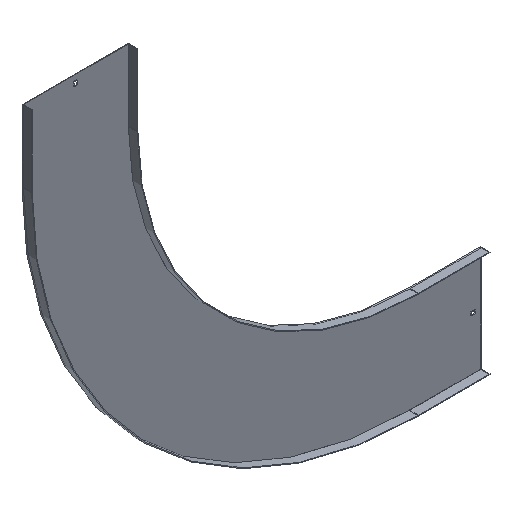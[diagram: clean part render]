
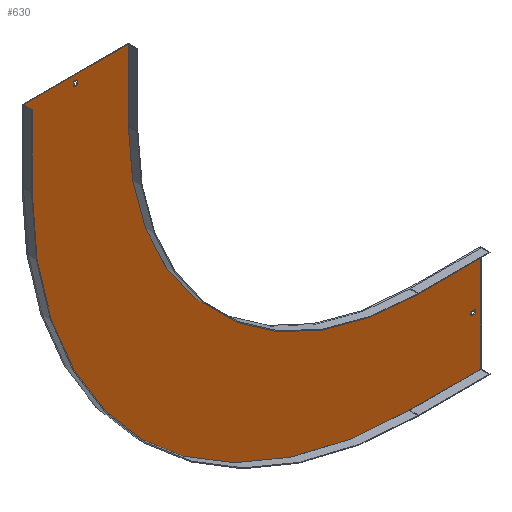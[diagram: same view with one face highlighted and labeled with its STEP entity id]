
A CAD part, isometric view. The second image highlights one B-rep face of the part: STEP entity #630.
In plain terms, the highlighted planar face has unit normal (0, -1, 0).
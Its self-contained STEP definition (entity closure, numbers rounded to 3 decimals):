
#4 = VECTOR ( 'NONE', #759, 1000. ) ;
#9 = VERTEX_POINT ( 'NONE', #281 ) ;
#14 = EDGE_CURVE ( 'NONE', #368, #798, #350, .T. ) ;
#26 = CARTESIAN_POINT ( 'NONE',  ( -810., -1.5, 150. ) ) ;
#32 = CARTESIAN_POINT ( 'NONE',  ( 0., -1.5, 0. ) ) ;
#33 = DIRECTION ( 'NONE',  ( 0., 0., -1. ) ) ;
#34 = DIRECTION ( 'NONE',  ( 0., 0., -1. ) ) ;
#40 = EDGE_CURVE ( 'NONE', #798, #301, #288, .T. ) ;
#45 = VERTEX_POINT ( 'NONE', #76 ) ;
#47 = VECTOR ( 'NONE', #267, 1000. ) ;
#48 = DIRECTION ( 'NONE',  ( 0., 0., 1. ) ) ;
#53 = LINE ( 'NONE', #315, #47 ) ;
#59 = DIRECTION ( 'NONE',  ( 0., 0., 1. ) ) ;
#63 = LINE ( 'NONE', #739, #539 ) ;
#67 = EDGE_CURVE ( 'NONE', #175, #129, #546, .T. ) ;
#71 = CIRCLE ( 'NONE', #99, 590. ) ;
#72 = DIRECTION ( 'NONE',  ( -1., 0., 0. ) ) ;
#75 = DIRECTION ( 'NONE',  ( 0., 0., -1. ) ) ;
#76 = CARTESIAN_POINT ( 'NONE',  ( -810., -1.5, 0. ) ) ;
#99 = AXIS2_PLACEMENT_3D ( 'NONE', #32, #561, #34 ) ;
#103 = ORIENTED_EDGE ( 'NONE', *, *, #582, .F. ) ;
#115 = VECTOR ( 'NONE', #33, 1000. ) ;
#123 = VERTEX_POINT ( 'NONE', #426 ) ;
#129 = VERTEX_POINT ( 'NONE', #265 ) ;
#130 = DIRECTION ( 'NONE',  ( 0., 0., 1. ) ) ;
#136 = LINE ( 'NONE', #464, #696 ) ;
#137 = LINE ( 'NONE', #721, #758 ) ;
#144 = CARTESIAN_POINT ( 'NONE',  ( 0., -1.5, 138. ) ) ;
#151 = CARTESIAN_POINT ( 'NONE',  ( -590., -1.5, 0. ) ) ;
#154 = DIRECTION ( 'NONE',  ( 1., 0., 0. ) ) ;
#165 = CARTESIAN_POINT ( 'NONE',  ( 129., -1.5, 0. ) ) ;
#175 = VERTEX_POINT ( 'NONE', #206 ) ;
#188 = EDGE_LOOP ( 'NONE', ( #789, #580, #504, #712 ) ) ;
#189 = CARTESIAN_POINT ( 'NONE',  ( 0., -1.5, -590. ) ) ;
#197 = EDGE_CURVE ( 'NONE', #719, #434, #136, .T. ) ;
#198 = EDGE_CURVE ( 'NONE', #45, #368, #63, .T. ) ;
#199 = VERTEX_POINT ( 'NONE', #399 ) ;
#201 = AXIS2_PLACEMENT_3D ( 'NONE', #680, #319, #75 ) ;
#206 = CARTESIAN_POINT ( 'NONE',  ( 129., -1.5, -703.25 ) ) ;
#212 = VECTOR ( 'NONE', #555, 1000. ) ;
#215 = LINE ( 'NONE', #468, #587 ) ;
#219 = FACE_BOUND ( 'NONE', #268, .T. ) ;
#220 = DIRECTION ( 'NONE',  ( 1., 0., 0. ) ) ;
#248 = LINE ( 'NONE', #791, #588 ) ;
#254 = DIRECTION ( 'NONE',  ( -1., 0., 0. ) ) ;
#264 = ORIENTED_EDGE ( 'NONE', *, *, #586, .T. ) ;
#265 = CARTESIAN_POINT ( 'NONE',  ( 138., -1.5, -703.25 ) ) ;
#267 = DIRECTION ( 'NONE',  ( 0., 0., -1. ) ) ;
#268 = EDGE_LOOP ( 'NONE', ( #513, #604, #264, #509 ) ) ;
#281 = CARTESIAN_POINT ( 'NONE',  ( -696.75, -1.5, 138. ) ) ;
#288 = LINE ( 'NONE', #814, #212 ) ;
#291 = CARTESIAN_POINT ( 'NONE',  ( -703.25, -1.5, 129. ) ) ;
#301 = VERTEX_POINT ( 'NONE', #151 ) ;
#315 = CARTESIAN_POINT ( 'NONE',  ( -696.75, -1.5, 0. ) ) ;
#319 = DIRECTION ( 'NONE',  ( 0., -1., 0. ) ) ;
#327 = VERTEX_POINT ( 'NONE', #678 ) ;
#337 = CARTESIAN_POINT ( 'NONE',  ( 0., -1.5, 129. ) ) ;
#350 = LINE ( 'NONE', #354, #390 ) ;
#354 = CARTESIAN_POINT ( 'NONE',  ( -811.5, -1.5, 150. ) ) ;
#359 = EDGE_CURVE ( 'NONE', #434, #9, #745, .T. ) ;
#366 = CARTESIAN_POINT ( 'NONE',  ( 150., -1.5, -588.5 ) ) ;
#368 = VERTEX_POINT ( 'NONE', #26 ) ;
#390 = VECTOR ( 'NONE', #220, 1000. ) ;
#399 = CARTESIAN_POINT ( 'NONE',  ( 0., -1.5, -810. ) ) ;
#402 = CARTESIAN_POINT ( 'NONE',  ( -696.75, -1.5, 129. ) ) ;
#406 = FACE_BOUND ( 'NONE', #188, .T. ) ;
#426 = CARTESIAN_POINT ( 'NONE',  ( 129., -1.5, -696.75 ) ) ;
#434 = VERTEX_POINT ( 'NONE', #446 ) ;
#440 = CARTESIAN_POINT ( 'NONE',  ( -590., -1.5, 150. ) ) ;
#442 = DIRECTION ( 'NONE',  ( 0., 0., -1. ) ) ;
#446 = CARTESIAN_POINT ( 'NONE',  ( -703.25, -1.5, 138. ) ) ;
#452 = EDGE_CURVE ( 'NONE', #123, #175, #579, .T. ) ;
#459 = ORIENTED_EDGE ( 'NONE', *, *, #40, .F. ) ;
#464 = CARTESIAN_POINT ( 'NONE',  ( -703.25, -1.5, 0. ) ) ;
#468 = CARTESIAN_POINT ( 'NONE',  ( 150., -1.5, -810. ) ) ;
#475 = FACE_OUTER_BOUND ( 'NONE', #608, .T. ) ;
#483 = CARTESIAN_POINT ( 'NONE',  ( 0., -1.5, -703.25 ) ) ;
#499 = EDGE_CURVE ( 'NONE', #301, #677, #71, .T. ) ;
#500 = DIRECTION ( 'NONE',  ( 0., 0., -1. ) ) ;
#504 = ORIENTED_EDGE ( 'NONE', *, *, #67, .F. ) ;
#509 = ORIENTED_EDGE ( 'NONE', *, *, #197, .T. ) ;
#511 = ORIENTED_EDGE ( 'NONE', *, *, #198, .F. ) ;
#513 = ORIENTED_EDGE ( 'NONE', *, *, #359, .T. ) ;
#522 = ORIENTED_EDGE ( 'NONE', *, *, #829, .F. ) ;
#539 = VECTOR ( 'NONE', #130, 1000. ) ;
#543 = VECTOR ( 'NONE', #442, 1000. ) ;
#546 = LINE ( 'NONE', #483, #4 ) ;
#550 = VERTEX_POINT ( 'NONE', #668 ) ;
#555 = DIRECTION ( 'NONE',  ( 0., 0., -1. ) ) ;
#561 = DIRECTION ( 'NONE',  ( 0., -1., 0. ) ) ;
#578 = DIRECTION ( 'NONE',  ( 0., 1., 0. ) ) ;
#579 = LINE ( 'NONE', #165, #543 ) ;
#580 = ORIENTED_EDGE ( 'NONE', *, *, #794, .F. ) ;
#582 = EDGE_CURVE ( 'NONE', #327, #199, #215, .T. ) ;
#586 = EDGE_CURVE ( 'NONE', #666, #719, #813, .T. ) ;
#587 = VECTOR ( 'NONE', #72, 1000. ) ;
#588 = VECTOR ( 'NONE', #48, 1000. ) ;
#604 = ORIENTED_EDGE ( 'NONE', *, *, #674, .T. ) ;
#608 = EDGE_LOOP ( 'NONE', ( #848, #511, #522, #103, #796, #857, #860, #459 ) ) ;
#630 = ADVANCED_FACE ( 'NONE', ( #406, #475, #219 ), #746, .T. ) ;
#651 = CARTESIAN_POINT ( 'NONE',  ( 150., -1.5, -590. ) ) ;
#666 = VERTEX_POINT ( 'NONE', #402 ) ;
#668 = CARTESIAN_POINT ( 'NONE',  ( 138., -1.5, -696.75 ) ) ;
#674 = EDGE_CURVE ( 'NONE', #9, #666, #53, .T. ) ;
#677 = VERTEX_POINT ( 'NONE', #189 ) ;
#678 = CARTESIAN_POINT ( 'NONE',  ( 150., -1.5, -810. ) ) ;
#680 = CARTESIAN_POINT ( 'NONE',  ( 0., -1.5, 0. ) ) ;
#685 = EDGE_CURVE ( 'NONE', #550, #123, #137, .T. ) ;
#696 = VECTOR ( 'NONE', #59, 1000. ) ;
#701 = DIRECTION ( 'NONE',  ( -1., 0., 0. ) ) ;
#709 = EDGE_CURVE ( 'NONE', #677, #780, #754, .T. ) ;
#712 = ORIENTED_EDGE ( 'NONE', *, *, #452, .F. ) ;
#719 = VERTEX_POINT ( 'NONE', #291 ) ;
#721 = CARTESIAN_POINT ( 'NONE',  ( 0., -1.5, -696.75 ) ) ;
#725 = CARTESIAN_POINT ( 'NONE',  ( 0., -1.5, 0. ) ) ;
#732 = AXIS2_PLACEMENT_3D ( 'NONE', #725, #578, #500 ) ;
#739 = CARTESIAN_POINT ( 'NONE',  ( -810., -1.5, 0. ) ) ;
#742 = VECTOR ( 'NONE', #752, 1000. ) ;
#744 = VECTOR ( 'NONE', #154, 1000. ) ;
#745 = LINE ( 'NONE', #144, #742 ) ;
#746 = PLANE ( 'NONE',  #201 ) ;
#750 = EDGE_CURVE ( 'NONE', #780, #327, #761, .T. ) ;
#752 = DIRECTION ( 'NONE',  ( 1., 0., 0. ) ) ;
#754 = LINE ( 'NONE', #834, #744 ) ;
#758 = VECTOR ( 'NONE', #701, 1000. ) ;
#759 = DIRECTION ( 'NONE',  ( 1., 0., 0. ) ) ;
#761 = LINE ( 'NONE', #366, #115 ) ;
#780 = VERTEX_POINT ( 'NONE', #651 ) ;
#789 = ORIENTED_EDGE ( 'NONE', *, *, #685, .F. ) ;
#791 = CARTESIAN_POINT ( 'NONE',  ( 138., -1.5, 0. ) ) ;
#794 = EDGE_CURVE ( 'NONE', #129, #550, #248, .T. ) ;
#796 = ORIENTED_EDGE ( 'NONE', *, *, #750, .F. ) ;
#798 = VERTEX_POINT ( 'NONE', #440 ) ;
#810 = VECTOR ( 'NONE', #254, 1000. ) ;
#813 = LINE ( 'NONE', #337, #810 ) ;
#814 = CARTESIAN_POINT ( 'NONE',  ( -590., -1.5, 150. ) ) ;
#827 = CIRCLE ( 'NONE', #732, 810. ) ;
#829 = EDGE_CURVE ( 'NONE', #199, #45, #827, .T. ) ;
#834 = CARTESIAN_POINT ( 'NONE',  ( 0., -1.5, -590. ) ) ;
#848 = ORIENTED_EDGE ( 'NONE', *, *, #14, .F. ) ;
#857 = ORIENTED_EDGE ( 'NONE', *, *, #709, .F. ) ;
#860 = ORIENTED_EDGE ( 'NONE', *, *, #499, .F. ) ;
